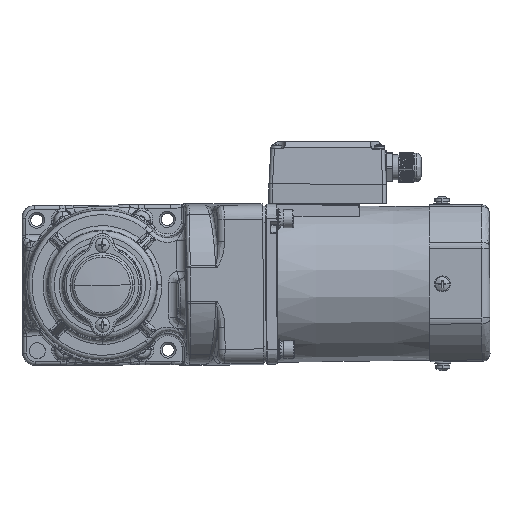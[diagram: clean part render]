
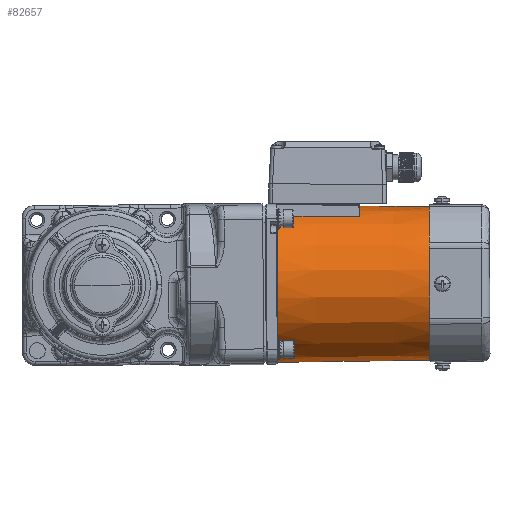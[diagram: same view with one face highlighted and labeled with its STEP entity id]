
A CAD part, left-side view. The second image highlights one B-rep face of the part: STEP entity #82657.
In plain terms, the highlighted conical face has half-angle 0.5 degrees and reference radius 44 mm.
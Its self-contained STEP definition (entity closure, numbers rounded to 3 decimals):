
#1603 = CARTESIAN_POINT ( 'NONE',  ( 46.837, -1.657, 154.5 ) ) ;
#2186 = DIRECTION ( 'NONE',  ( 1., 0., 0. ) ) ;
#3979 = EDGE_CURVE ( 'NONE', #119812, #65668, #56412, .T. ) ;
#5435 = ORIENTED_EDGE ( 'NONE', *, *, #52482, .F. ) ;
#6250 = DIRECTION ( 'NONE',  ( 0., 0., -1. ) ) ;
#7244 = CARTESIAN_POINT ( 'NONE',  ( 41.159, -23.171, 154.593 ) ) ;
#7847 = CARTESIAN_POINT ( 'NONE',  ( 41.147, -23.193, 154.619 ) ) ;
#8653 = EDGE_CURVE ( 'NONE', #115518, #28813, #111910, .T. ) ;
#10056 = CARTESIAN_POINT ( 'NONE',  ( 41.348, -23.657, 201. ) ) ;
#10202 = EDGE_CURVE ( 'NONE', #59095, #115518, #20632, .T. ) ;
#10313 = CARTESIAN_POINT ( 'NONE',  ( 41.348, -23.657, 201. ) ) ;
#11087 = CARTESIAN_POINT ( 'NONE',  ( 3.243, -1.657, 201. ) ) ;
#11418 = CARTESIAN_POINT ( 'NONE',  ( 3.243, -1.657, 201. ) ) ;
#12575 = ORIENTED_EDGE ( 'NONE', *, *, #3979, .T. ) ;
#17460 = ORIENTED_EDGE ( 'NONE', *, *, #37624, .T. ) ;
#17634 = CONICAL_SURFACE ( 'NONE', #54759, 44., 0.009 ) ;
#18900 = VERTEX_POINT ( 'NONE', #73935 ) ;
#19743 = DIRECTION ( 'NONE',  ( 1., 0., 0. ) ) ;
#19917 = CARTESIAN_POINT ( 'NONE',  ( 41.114, -23.254, 154.797 ) ) ;
#20632 = LINE ( 'NONE', #50194, #100260 ) ;
#26395 = LINE ( 'NONE', #64037, #27918 ) ;
#26940 = CARTESIAN_POINT ( 'NONE',  ( 41.166, -23.159, 154.581 ) ) ;
#27543 = CARTESIAN_POINT ( 'NONE',  ( 41.165, -23.161, 154.584 ) ) ;
#27918 = VECTOR ( 'NONE', #101627, 1000. ) ;
#28813 = VERTEX_POINT ( 'NONE', #90767 ) ;
#30814 = AXIS2_PLACEMENT_3D ( 'NONE', #11087, #85697, #19743 ) ;
#33321 = B_SPLINE_CURVE_WITH_KNOTS ( 'NONE', 3,
 ( #55304, #81839, #92297, #74425, #112078, #7847, #120120, #7244, #84253, #27543, #26940, #110266, #65171, #55911, #103385, #72626 ),
 .UNSPECIFIED., .F., .F.,
 ( 4, 2, 2, 1, 1, 2, 2, 2, 4 ),
 ( 0., 0.25, 0.375, 0.438, 0.469, 0.484, 0.5, 0.75, 1. ),
 .UNSPECIFIED. ) ;
#37624 = EDGE_CURVE ( 'NONE', #84756, #119812, #104318, .T. ) ;
#38525 = ORIENTED_EDGE ( 'NONE', *, *, #8653, .T. ) ;
#44462 = CARTESIAN_POINT ( 'NONE',  ( 3.243, -1.657, 154.5 ) ) ;
#50194 = CARTESIAN_POINT ( 'NONE',  ( 47.243, -1.657, 201. ) ) ;
#52482 = EDGE_CURVE ( 'NONE', #84756, #28813, #33321, .T. ) ;
#54759 = AXIS2_PLACEMENT_3D ( 'NONE', #11418, #86642, #2186 ) ;
#54994 = CARTESIAN_POINT ( 'NONE',  ( 3.243, -1.657, 114. ) ) ;
#55304 = CARTESIAN_POINT ( 'NONE',  ( 41.114, -23.254, 154.797 ) ) ;
#55911 = CARTESIAN_POINT ( 'NONE',  ( 41.23, -23.046, 154.512 ) ) ;
#56412 = CIRCLE ( 'NONE', #30814, 44. ) ;
#56911 = CARTESIAN_POINT ( 'NONE',  ( 41.192, -23.388, 170.198 ) ) ;
#57622 = DIRECTION ( 'NONE',  ( 0.009, 0., 1. ) ) ;
#59044 = CARTESIAN_POINT ( 'NONE',  ( -40.757, -1.657, 201. ) ) ;
#59095 = VERTEX_POINT ( 'NONE', #104095 ) ;
#62291 = CARTESIAN_POINT ( 'NONE',  ( 41.114, -23.254, 154.797 ) ) ;
#63278 = AXIS2_PLACEMENT_3D ( 'NONE', #54994, #83335, #92604 ) ;
#64037 = CARTESIAN_POINT ( 'NONE',  ( -40.757, -1.657, 201. ) ) ;
#65171 = CARTESIAN_POINT ( 'NONE',  ( 41.192, -23.114, 154.544 ) ) ;
#65668 = VERTEX_POINT ( 'NONE', #59044 ) ;
#70229 = EDGE_LOOP ( 'NONE', ( #118197, #116409, #71586, #38525, #5435, #17460, #12575 ) ) ;
#71586 = ORIENTED_EDGE ( 'NONE', *, *, #10202, .T. ) ;
#72626 = CARTESIAN_POINT ( 'NONE',  ( 41.281, -22.954, 154.5 ) ) ;
#73935 = CARTESIAN_POINT ( 'NONE',  ( -39.998, -1.657, 114. ) ) ;
#74425 = CARTESIAN_POINT ( 'NONE',  ( 41.132, -23.221, 154.663 ) ) ;
#77307 = EDGE_CURVE ( 'NONE', #18900, #59095, #116718, .T. ) ;
#79122 = EDGE_CURVE ( 'NONE', #18900, #65668, #26395, .T. ) ;
#81839 = CARTESIAN_POINT ( 'NONE',  ( 41.114, -23.253, 154.759 ) ) ;
#82657 = ADVANCED_FACE ( 'NONE', ( #114438 ), #17634, .T. ) ;
#83335 = DIRECTION ( 'NONE',  ( 0., 0., 1. ) ) ;
#84253 = CARTESIAN_POINT ( 'NONE',  ( 41.162, -23.165, 154.587 ) ) ;
#84756 = VERTEX_POINT ( 'NONE', #62291 ) ;
#85697 = DIRECTION ( 'NONE',  ( 0., 0., -1. ) ) ;
#86642 = DIRECTION ( 'NONE',  ( 0., 0., 1. ) ) ;
#90767 = CARTESIAN_POINT ( 'NONE',  ( 41.281, -22.954, 154.5 ) ) ;
#92297 = CARTESIAN_POINT ( 'NONE',  ( 41.118, -23.246, 154.72 ) ) ;
#92604 = DIRECTION ( 'NONE',  ( 1., 0., 0. ) ) ;
#100260 = VECTOR ( 'NONE', #57622, 1000. ) ;
#101171 = DIRECTION ( 'NONE',  ( 1., 0., 0. ) ) ;
#101627 = DIRECTION ( 'NONE',  ( -0.009, 0., 1. ) ) ;
#103385 = CARTESIAN_POINT ( 'NONE',  ( 41.253, -23.003, 154.5 ) ) ;
#104095 = CARTESIAN_POINT ( 'NONE',  ( 46.483, -1.657, 114. ) ) ;
#104318 = B_SPLINE_CURVE_WITH_KNOTS ( 'NONE', 3,
 ( #19917, #56911, #114282, #10056 ),
 .UNSPECIFIED., .F., .F.,
 ( 4, 4 ),
 ( 0., 0.046 ),
 .UNSPECIFIED. ) ;
#110266 = CARTESIAN_POINT ( 'NONE',  ( 41.177, -23.139, 154.563 ) ) ;
#111910 = CIRCLE ( 'NONE', #113834, 43.594 ) ;
#112078 = CARTESIAN_POINT ( 'NONE',  ( 41.137, -23.211, 154.645 ) ) ;
#113834 = AXIS2_PLACEMENT_3D ( 'NONE', #44462, #6250, #101171 ) ;
#114282 = CARTESIAN_POINT ( 'NONE',  ( 41.27, -23.522, 185.599 ) ) ;
#114438 = FACE_OUTER_BOUND ( 'NONE', #70229, .T. ) ;
#115518 = VERTEX_POINT ( 'NONE', #1603 ) ;
#116409 = ORIENTED_EDGE ( 'NONE', *, *, #77307, .T. ) ;
#116718 = CIRCLE ( 'NONE', #63278, 43.241 ) ;
#118197 = ORIENTED_EDGE ( 'NONE', *, *, #79122, .F. ) ;
#119812 = VERTEX_POINT ( 'NONE', #10313 ) ;
#120120 = CARTESIAN_POINT ( 'NONE',  ( 41.152, -23.184, 154.607 ) ) ;
